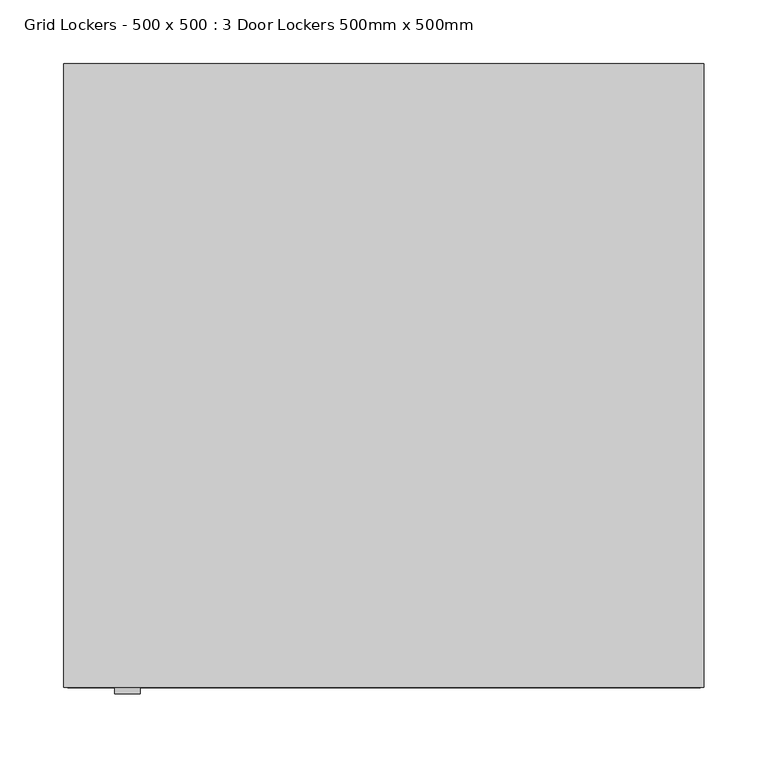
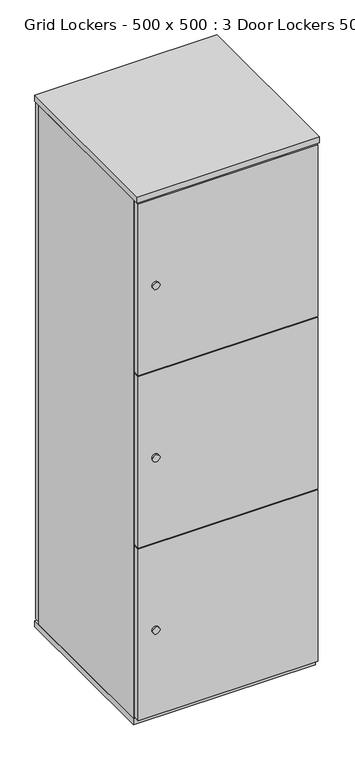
"""IFC4 building model written with IfcOpenShell, lengths in millimetres: furniture geometry, Grid Lockers - 500 x 500 : 3 Door Lockers 500mm x 500mm."""

from ifc_helpers import new_model, si_unit, point, frame, frame_2d, origin, origin_with_axes, place, context, project, spatial, polyline, circle_curve, trimmed, segment, composite_curve, outline, extrude, source, transform, mapped, element, save


def grid_lockers_500_x_500_3_door_lockers_500mm_x_500mm_36771719(model_context):
    return source(origin(), model_context, "Body", "SweptSolid", [
        extrude(outline(composite_curve([segment(trimmed(circle_curve(frame_2d((1287.897948, 50.0)), 10.0), [point((1287.897948, 40.0))], [point((1287.897948, 60.0))], False, "CARTESIAN"), True, "CONTINUOUS"), segment(trimmed(circle_curve(frame_2d((1287.897948, 50.0)), 10.0), [point((1287.897948, 60.0))], [point((1287.897948, 40.0))], False, "CARTESIAN"), True, "CONTINUOUS")], self_intersect=False)), frame((0.0, -495.0, 0.0), z_axis=(0.0, 1.0, 0.0), x_axis=(0.0, 0.0, 1.0)), (0.0, 0.0, 1.0), 5.0),
        extrude(outline(polyline([(499.9925633, -490.0), (2.9925633, -490.0), (2.9925633, -472.0), (499.9925633, -472.0), (499.9925633, -490.0)])), frame((0.0, 0.0, 1039.5179781), z_axis=(0.0, 0.0, 1.0), x_axis=(1.0, 0.0, 0.0)), (0.0, 0.0, 1.0), 500.0),
        extrude(outline(composite_curve([segment(trimmed(circle_curve(frame_2d((784.948974, 50.0)), 10.0), [point((784.948974, 40.0))], [point((784.948974, 60.0))], False, "CARTESIAN"), True, "CONTINUOUS"), segment(trimmed(circle_curve(frame_2d((784.948974, 50.0)), 10.0), [point((784.948974, 60.0))], [point((784.948974, 40.0))], False, "CARTESIAN"), True, "CONTINUOUS")], self_intersect=False)), frame((0.0, -495.0, 0.0), z_axis=(0.0, 1.0, 0.0), x_axis=(0.0, 0.0, 1.0)), (0.0, 0.0, 1.0), 5.0),
        extrude(outline(composite_curve([segment(trimmed(circle_curve(frame_2d((282.0, 50.0)), 10.0), [point((282.0, 40.0))], [point((282.0, 60.0))], False, "CARTESIAN"), True, "CONTINUOUS"), segment(trimmed(circle_curve(frame_2d((282.0, 50.0)), 10.0), [point((282.0, 60.0))], [point((282.0, 40.0))], False, "CARTESIAN"), True, "CONTINUOUS")], self_intersect=False)), frame((0.0, -495.0, 0.0), z_axis=(0.0, 1.0, 0.0), x_axis=(0.0, 0.0, 1.0)), (0.0, 0.0, 1.0), 5.0),
        extrude(outline(polyline([(499.9962816, -490.0), (2.9962816, -490.0), (2.9962816, -472.0), (499.9962816, -472.0), (499.9962816, -490.0)])), frame((0.0, 0.0, 535.7589891), z_axis=(0.0, 0.0, 1.0), x_axis=(1.0, 0.0, 0.0)), (0.0, 0.0, 1.0), 500.0),
        extrude(outline(composite_curve([segment(trimmed(circle_curve(frame_2d((450.0, -50.0)), 15.0), [point((435.0, -50.0))], [point((465.0, -50.0))], False, "CARTESIAN"), True, "CONTINUOUS"), segment(trimmed(circle_curve(frame_2d((450.0, -50.0)), 15.0), [point((465.0, -50.0))], [point((435.0, -50.0))], False, "CARTESIAN"), True, "CONTINUOUS")], self_intersect=False)), origin_with_axes(), (0.0, 0.0, 1.0), 10.0),
        extrude(outline(composite_curve([segment(trimmed(circle_curve(frame_2d((50.0, -50.0)), 15.0), [point((35.0, -50.0))], [point((65.0, -50.0))], False, "CARTESIAN"), True, "CONTINUOUS"), segment(trimmed(circle_curve(frame_2d((50.0, -50.0)), 15.0), [point((65.0, -50.0))], [point((35.0, -50.0))], False, "CARTESIAN"), True, "CONTINUOUS")], self_intersect=False)), origin_with_axes(), (0.0, 0.0, 1.0), 10.0),
        extrude(outline(composite_curve([segment(trimmed(circle_curve(frame_2d((50.0, -440.0)), 15.0), [point((35.0, -440.0))], [point((65.0, -440.0))], False, "CARTESIAN"), True, "CONTINUOUS"), segment(trimmed(circle_curve(frame_2d((50.0, -440.0)), 15.0), [point((65.0, -440.0))], [point((35.0, -440.0))], False, "CARTESIAN"), True, "CONTINUOUS")], self_intersect=False)), origin_with_axes(), (0.0, 0.0, 1.0), 10.0),
        extrude(outline(composite_curve([segment(trimmed(circle_curve(frame_2d((450.0, -440.0)), 15.0), [point((435.0, -440.0))], [point((465.0, -440.0))], False, "CARTESIAN"), True, "CONTINUOUS"), segment(trimmed(circle_curve(frame_2d((450.0, -440.0)), 15.0), [point((465.0, -440.0))], [point((435.0, -440.0))], False, "CARTESIAN"), True, "CONTINUOUS")], self_intersect=False)), origin_with_axes(), (0.0, 0.0, 1.0), 10.0),
        extrude(outline(polyline([(502.9888449, -490.0), (0.0, -490.0), (0.0, 0.0), (502.9888449, 0.0), (502.9888449, -490.0)])), frame((0.0, 0.0, 1544.0), z_axis=(0.0, 0.0, 1.0), x_axis=(1.0, 0.0, 0.0)), (0.0, 0.0, 1.0), 18.0),
        extrude(outline(polyline([(502.9888449, -472.0), (0.0, -472.0), (0.0, 0.0), (502.9888449, 0.0), (502.9888449, -472.0)])), frame((0.0, 0.0, 10.0), z_axis=(0.0, 0.0, 1.0), x_axis=(1.0, 0.0, 0.0)), (0.0, 0.0, 1.0), 18.0),
        extrude(outline(polyline([(500.0, -490.0), (3.0, -490.0), (3.0, -472.0), (500.0, -472.0), (500.0, -490.0)])), frame((0.0, 0.0, 32.0), z_axis=(0.0, 0.0, 1.0), x_axis=(1.0, 0.0, 0.0)), (0.0, 0.0, 1.0), 500.0),
        extrude(outline(polyline([(502.9888449, -18.0), (502.9888449, -472.0), (0.0, -472.0), (0.0, -18.0), (502.9888449, -18.0)])), frame((0.0, 0.0, 28.0), z_axis=(0.0, 0.0, 1.0), x_axis=(1.0, 0.0, 0.0)), (0.0, 0.0, 1.0), 1516.0),
        extrude(outline(polyline([(497.0, 0.0), (497.0, -18.0), (3.0, -18.0), (3.0, 0.0), (497.0, 0.0)])), frame((0.0, 0.0, 32.0), z_axis=(0.0, 0.0, 1.0), x_axis=(1.0, 0.0, 0.0)), (0.0, 0.0, 1.0), 1512.0),
    ])


if __name__ == "__main__":
    model = new_model("IFC4")
    model_context = context("Model", 3, world=origin())
    ifc_project = project(units=[si_unit("LENGTHUNIT", "METRE", prefix="MILLI")], contexts=[model_context])
    site = spatial("IfcSite", under=ifc_project)
    building = spatial("IfcBuilding", under=site)
    placement = place(None, origin())
    grid_lockers_500_x_500_3_door_lockers_500mm_x_500mm_shape = grid_lockers_500_x_500_3_door_lockers_500mm_x_500mm_36771719(model_context)
    element("IfcFurniture", 1, ObjectType="Grid Lockers - 500 x 500 : 3 Door Lockers 500mm x 500mm", at=placement, inside=building, context=model_context, shape_type="MappedRepresentation", body=[
        mapped(grid_lockers_500_x_500_3_door_lockers_500mm_x_500mm_shape, transform((0.0, 0.0, 0.0), x_axis=(1.0, 0.0, 0.0), y_axis=(0.0, 1.0, 0.0), z_axis=(0.0, 0.0, 1.0))),
    ])
    save(model, "model.ifc")
